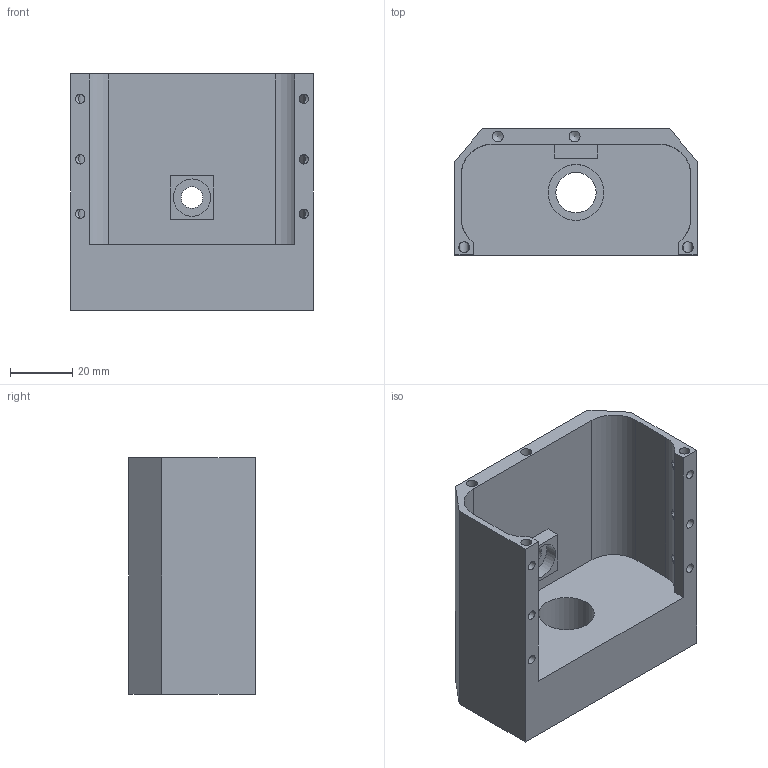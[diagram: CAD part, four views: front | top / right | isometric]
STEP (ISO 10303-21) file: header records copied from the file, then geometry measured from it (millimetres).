
FILE_DESCRIPTION(/* description */ (''),/* implementation_level */ '2;1');
FILE_NAME(/* name */ 'C:\Users\Clement\Desktop\New Body.stp',/* time_stamp */ '2016-02-21T20:03:03+01:00',/* author */ ('Clement'),/* organization */ (''),/* preprocessor_version */ 'ST-DEVELOPER v16.1',/* originating_system */ 'Autodesk Inventor 2016',/* authorisation */ '');
FILE_SCHEMA (('AUTOMOTIVE_DESIGN { 1 0 10303 214 3 1 1 }'));
Length unit declared in the file: millimetre
Products named in the file (1): New Rotor Body
Bounding box: 78 x 40.63 x 75.98 mm (x, y, z)
Volume: 88529 mm3; surface area: 29282.3 mm2
Topology: 1 solids, 1 shells, 51 faces, 139 edges, 91 vertices
Faces by surface type: plane 21, cylinder 18, cone 12
Full cylindrical faces by diameter (mm): 3 x6, 3.5 x4, 7 x1, 12 x1, 13 x1, 18 x1
Entity records: 1780 total; most frequent: CARTESIAN_POINT 576, DIRECTION 232, ORIENTED_EDGE 220, EDGE_CURVE 110, EDGE_LOOP 90, AXIS2_PLACEMENT_3D 90, VERTEX_POINT 80, LINE 52
